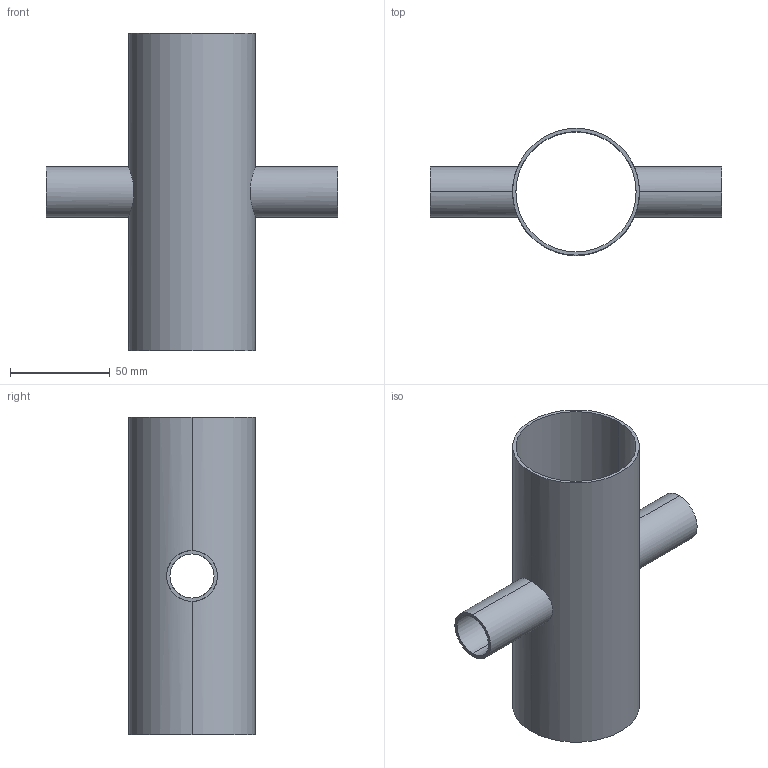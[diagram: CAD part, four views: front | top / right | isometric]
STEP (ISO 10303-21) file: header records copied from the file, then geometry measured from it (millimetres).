
FILE_DESCRIPTION (( 'STEP AP214' ), '1' );
FILE_NAME ('TE9RWWWW6L2.5x1.0-...STEP', '2016-05-22T04:19:03', ( 'eran' ), ( '' ), 'SwSTEP 2.0', 'SolidWorks 2016', '' );
FILE_SCHEMA (( 'AUTOMOTIVE_DESIGN' ));
Length unit declared in the file: millimetre
Products named in the file (1): TE9RWWWW6L2.5x1.0-..
Bounding box: 146.05 x 63.5 x 158.75 mm (x, y, z)
Volume: 60090.4 mm3; surface area: 73665.1 mm2
Topology: 1 solids, 1 shells, 16 faces, 40 edges, 24 vertices
Faces by surface type: cylinder 12, plane 4
Entity records: 890 total; most frequent: CARTESIAN_POINT 465, DIRECTION 82, ORIENTED_EDGE 80, EDGE_CURVE 40, AXIS2_PLACEMENT_3D 33, VERTEX_POINT 24, EDGE_LOOP 20, LINE 16
